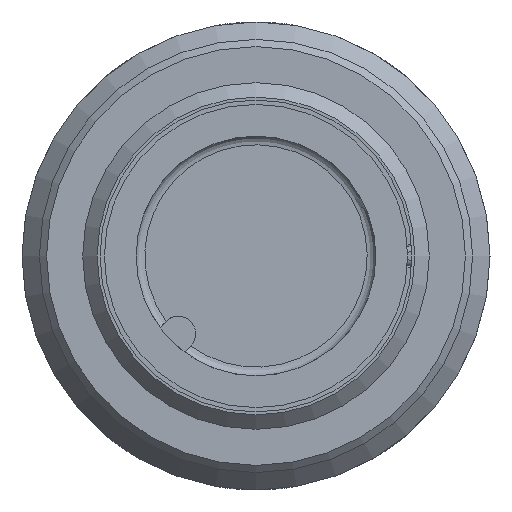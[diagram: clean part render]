
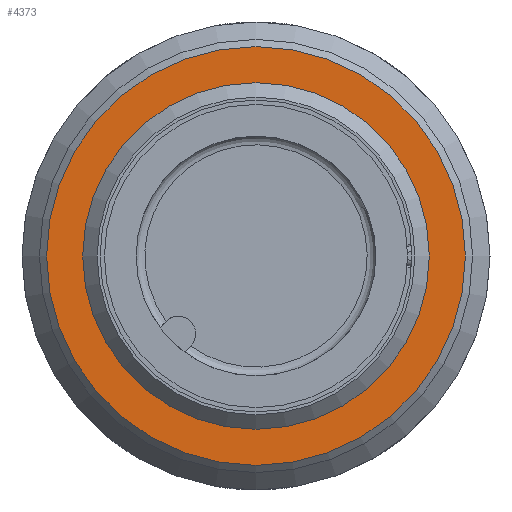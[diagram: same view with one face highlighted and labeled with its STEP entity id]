
A CAD part, front view. The second image highlights one B-rep face of the part: STEP entity #4373.
In plain terms, the highlighted planar face has unit normal (0, -1, 0).
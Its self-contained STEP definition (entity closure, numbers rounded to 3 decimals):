
#4051=CARTESIAN_POINT('',(6.,0.551,0.0));
#4052=VERTEX_POINT('',#4051);
#4053=CARTESIAN_POINT('',(0.,0.551,0.0));
#4054=DIRECTION('',(0.0,-1.0,0.0));
#4055=DIRECTION('',(1.0,0.0,0.0));
#4056=AXIS2_PLACEMENT_3D('',#4053,#4054,#4055);
#4057=CIRCLE('',#4056,6.);
#4058=EDGE_CURVE('',#4052,#4052,#4057,.T.);
#4347=CARTESIAN_POINT('',(7.25,0.551,0.0));
#4348=VERTEX_POINT('',#4347);
#4349=CARTESIAN_POINT('',(0.,0.551,0.0));
#4350=DIRECTION('',(0.0,-1.0,0.0));
#4351=DIRECTION('',(1.0,0.0,0.0));
#4352=AXIS2_PLACEMENT_3D('',#4349,#4350,#4351);
#4353=CIRCLE('',#4352,7.25);
#4354=EDGE_CURVE('',#4348,#4348,#4353,.T.);
#4362=CARTESIAN_POINT('',(6.625,0.551,0.0));
#4363=DIRECTION('',(0.0,-1.0,0.0));
#4364=DIRECTION('',(0.0,0.0,-1.0));
#4365=AXIS2_PLACEMENT_3D('',#4362,#4363,#4364);
#4366=PLANE('',#4365);
#4367=ORIENTED_EDGE('',*,*,#4354,.T.);
#4368=EDGE_LOOP('',(#4367));
#4369=FACE_OUTER_BOUND('',#4368,.T.);
#4370=ORIENTED_EDGE('',*,*,#4058,.F.);
#4371=EDGE_LOOP('',(#4370));
#4372=FACE_BOUND('',#4371,.T.);
#4373=ADVANCED_FACE('',(#4369,#4372),#4366,.T.);
